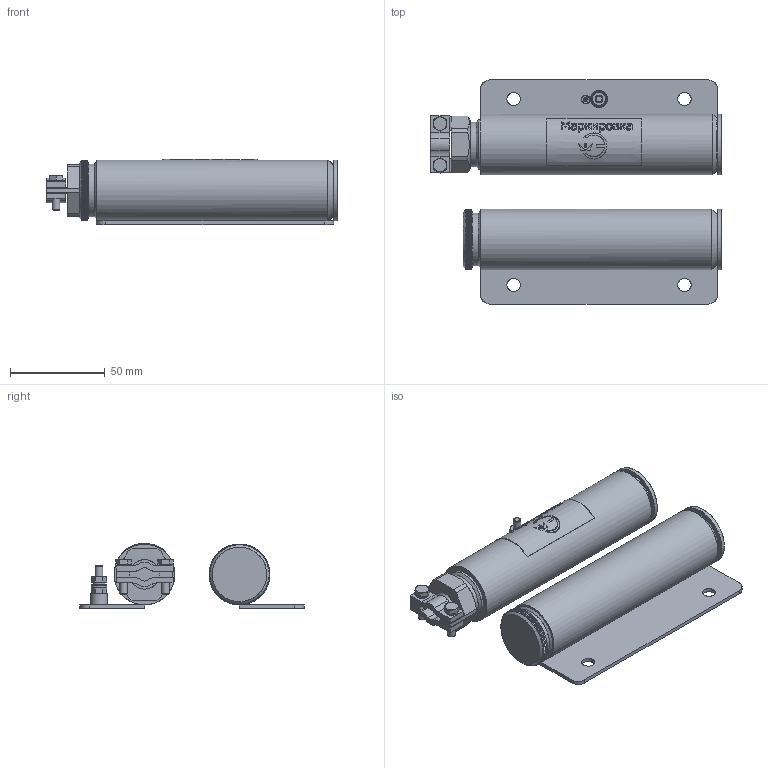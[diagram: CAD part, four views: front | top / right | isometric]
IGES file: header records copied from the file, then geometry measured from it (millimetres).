
Bounding box: 153.25 x 118 x 34.3 mm (x, y, z)
Surface area: 69122.2 mm2 (no closed solid volume)
Topology: 0 solids, 0 shells, 917 faces, 5842 edges, 5794 vertices
Faces by surface type: bspline 620, revolution 297
